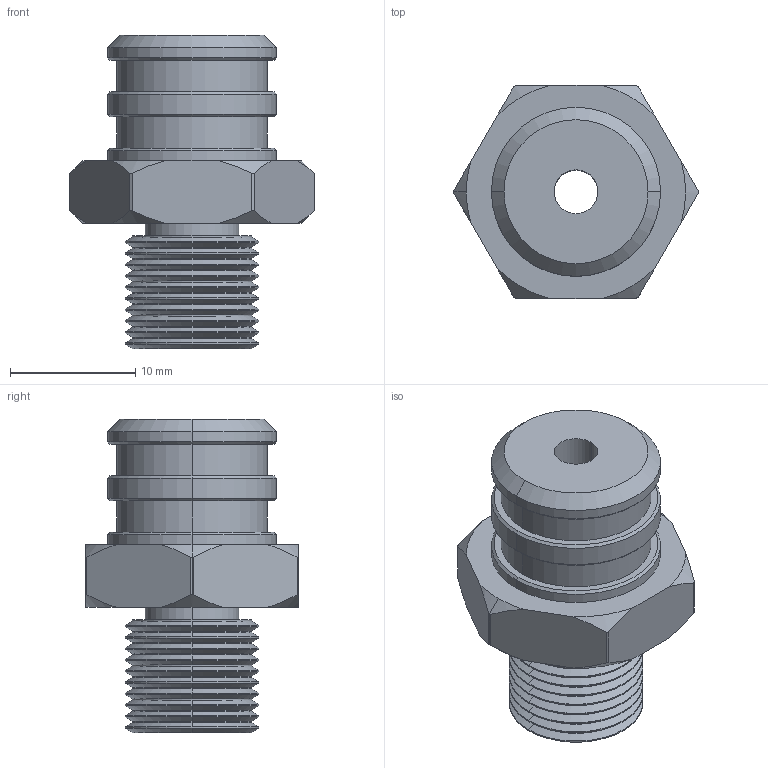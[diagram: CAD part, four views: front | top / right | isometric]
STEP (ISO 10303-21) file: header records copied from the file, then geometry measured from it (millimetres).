
FILE_DESCRIPTION (( 'STEP AP214' ), '1' );
FILE_NAME ('VM-06-G1-8.STEP', '2023-03-07T08:56:13', ( 'Windows User' ), ( 'P R C' ), 'SwSTEP 2.0', 'SolidWorks 2019', '' );
FILE_SCHEMA (( 'AUTOMOTIVE_DESIGN' ));
Length unit declared in the file: millimetre
Products named in the file (1): VM-06-G1-8
Bounding box: 19.5 x 17 x 25 mm (x, y, z)
Volume: 3022.1 mm3; surface area: 2071.6 mm2
Topology: 1 solids, 1 shells, 142 faces, 308 edges, 175 vertices
Faces by surface type: cone 66, cylinder 61, plane 15
Entity records: 3933 total; most frequent: CARTESIAN_POINT 754, DIRECTION 721, ORIENTED_EDGE 616, EDGE_CURVE 308, AXIS2_PLACEMENT_3D 294, VERTEX_POINT 175, EDGE_LOOP 151, CIRCLE 151
